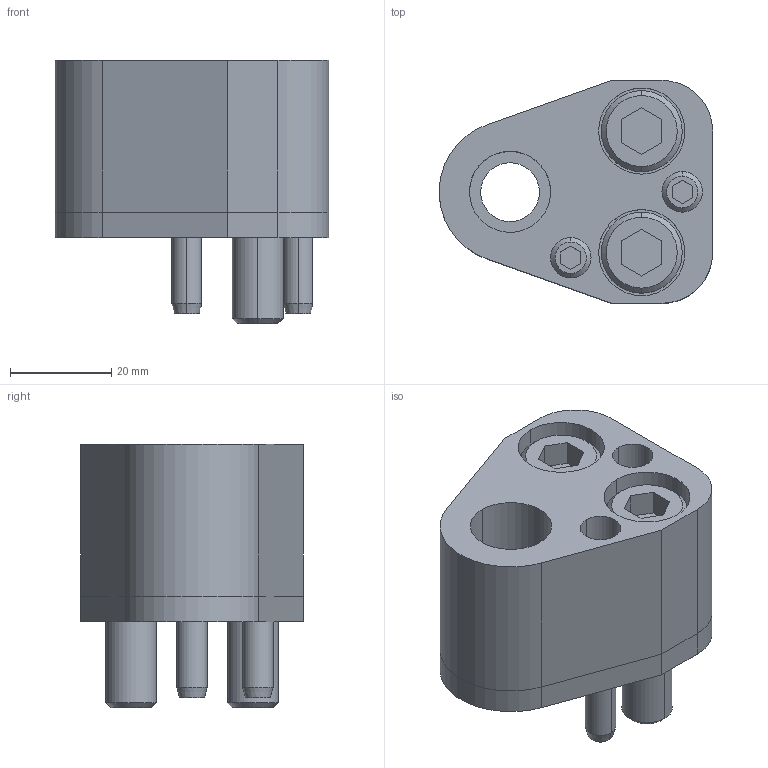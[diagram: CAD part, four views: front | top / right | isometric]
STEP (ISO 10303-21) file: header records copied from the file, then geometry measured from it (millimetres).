
FILE_DESCRIPTION(/* description */ (''),/* implementation_level */ '2;1');
FILE_NAME(/* name */ '3d_dp-ad16_02812_r00.stp',/* time_stamp */ '2011-01-10T14:15:59+09:00',/* author */ ('MISUMI'),/* organization */ (''),/* preprocessor_version */ 'ST-DEVELOPER v11',/* originating_system */ 'UGS - NX 5.0',/* authorisation */ '');
FILE_SCHEMA (('CONFIG_CONTROL_DESIGN'));
Length unit declared in the file: millimetre
Products named in the file (1): 3d_dp-ad16_02812_r00
Bounding box: 53.95 x 44 x 52 mm (x, y, z)
Volume: 57926.5 mm3; surface area: 24306.3 mm2
Topology: 8 solids, 8 shells, 155 faces, 346 edges, 222 vertices
Faces by surface type: plane 67, cylinder 62, cone 26
Entity records: 4480 total; most frequent: DIRECTION 804, CARTESIAN_POINT 778, ORIENTED_EDGE 692, EDGE_CURVE 346, AXIS2_PLACEMENT_3D 306, VERTEX_POINT 222, LINE 192, VECTOR 192
